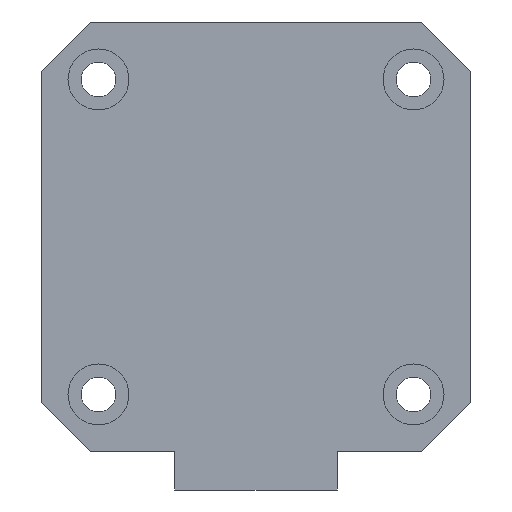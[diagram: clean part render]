
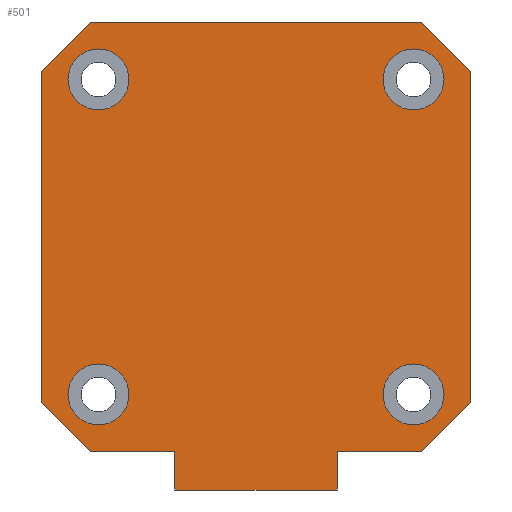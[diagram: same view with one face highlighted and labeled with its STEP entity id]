
A CAD part, front view. The second image highlights one B-rep face of the part: STEP entity #501.
In plain terms, the highlighted planar face has unit normal (0, -1, 0).
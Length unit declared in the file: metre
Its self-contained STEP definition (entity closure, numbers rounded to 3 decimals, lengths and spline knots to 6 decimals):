
#24=CIRCLE('',#531,0.003);
#27=CIRCLE('',#537,0.003);
#30=CIRCLE('',#543,0.003);
#33=CIRCLE('',#549,0.003);
#100=ORIENTED_EDGE('',*,*,#207,.F.);
#101=ORIENTED_EDGE('',*,*,#196,.F.);
#102=ORIENTED_EDGE('',*,*,#208,.F.);
#103=ORIENTED_EDGE('',*,*,#199,.F.);
#104=ORIENTED_EDGE('',*,*,#209,.F.);
#105=ORIENTED_EDGE('',*,*,#202,.F.);
#106=ORIENTED_EDGE('',*,*,#210,.F.);
#107=ORIENTED_EDGE('',*,*,#205,.F.);
#108=ORIENTED_EDGE('',*,*,#211,.F.);
#109=ORIENTED_EDGE('',*,*,#212,.F.);
#110=ORIENTED_EDGE('',*,*,#189,.F.);
#111=ORIENTED_EDGE('',*,*,#193,.T.);
#112=ORIENTED_EDGE('',*,*,#185,.F.);
#113=ORIENTED_EDGE('',*,*,#182,.F.);
#114=ORIENTED_EDGE('',*,*,#179,.F.);
#115=ORIENTED_EDGE('',*,*,#176,.F.);
#176=EDGE_CURVE('',#238,#238,#24,.T.);
#179=EDGE_CURVE('',#241,#241,#27,.T.);
#182=EDGE_CURVE('',#244,#244,#30,.T.);
#185=EDGE_CURVE('',#247,#247,#33,.T.);
#189=EDGE_CURVE('',#251,#252,#281,.T.);
#193=EDGE_CURVE('',#251,#255,#285,.T.);
#196=EDGE_CURVE('',#256,#257,#288,.F.);
#199=EDGE_CURVE('',#258,#259,#291,.F.);
#202=EDGE_CURVE('',#260,#261,#294,.F.);
#205=EDGE_CURVE('',#262,#263,#297,.F.);
#207=EDGE_CURVE('',#257,#255,#299,.F.);
#208=EDGE_CURVE('',#259,#256,#300,.F.);
#209=EDGE_CURVE('',#261,#258,#301,.F.);
#210=EDGE_CURVE('',#263,#260,#302,.F.);
#211=EDGE_CURVE('',#264,#262,#303,.F.);
#212=EDGE_CURVE('',#252,#264,#304,.F.);
#238=VERTEX_POINT('',#747);
#241=VERTEX_POINT('',#756);
#244=VERTEX_POINT('',#765);
#247=VERTEX_POINT('',#774);
#251=VERTEX_POINT('',#784);
#252=VERTEX_POINT('',#786);
#255=VERTEX_POINT('',#793);
#256=VERTEX_POINT('',#798);
#257=VERTEX_POINT('',#800);
#258=VERTEX_POINT('',#804);
#259=VERTEX_POINT('',#806);
#260=VERTEX_POINT('',#810);
#261=VERTEX_POINT('',#812);
#262=VERTEX_POINT('',#816);
#263=VERTEX_POINT('',#818);
#264=VERTEX_POINT('',#826);
#281=LINE('',#785,#327);
#285=LINE('',#794,#331);
#288=LINE('',#799,#334);
#291=LINE('',#805,#337);
#294=LINE('',#811,#340);
#297=LINE('',#817,#343);
#299=LINE('',#821,#345);
#300=LINE('',#822,#346);
#301=LINE('',#823,#347);
#302=LINE('',#824,#348);
#303=LINE('',#825,#349);
#304=LINE('',#827,#350);
#327=VECTOR('',#646,1.);
#331=VECTOR('',#652,1.);
#334=VECTOR('',#657,1.);
#337=VECTOR('',#662,1.);
#340=VECTOR('',#667,1.);
#343=VECTOR('',#672,1.);
#345=VECTOR('',#676,1.);
#346=VECTOR('',#677,1.);
#347=VECTOR('',#678,1.);
#348=VECTOR('',#679,1.);
#349=VECTOR('',#680,1.);
#350=VECTOR('',#681,1.);
#395=EDGE_LOOP('',(#100,#101,#102,#103,#104,#105,#106,#107,#108,#109,#110,
#111));
#396=EDGE_LOOP('',(#112));
#397=EDGE_LOOP('',(#113));
#398=EDGE_LOOP('',(#114));
#399=EDGE_LOOP('',(#115));
#445=FACE_BOUND('',#395,.T.);
#446=FACE_BOUND('',#396,.T.);
#447=FACE_BOUND('',#397,.T.);
#448=FACE_BOUND('',#398,.T.);
#449=FACE_BOUND('',#399,.T.);
#471=PLANE('',#560);
#501=ADVANCED_FACE('',(#445,#446,#447,#448,#449),#471,.F.);
#531=AXIS2_PLACEMENT_3D('',#746,#597,#598);
#537=AXIS2_PLACEMENT_3D('',#755,#609,#610);
#543=AXIS2_PLACEMENT_3D('',#764,#621,#622);
#549=AXIS2_PLACEMENT_3D('',#773,#633,#634);
#560=AXIS2_PLACEMENT_3D('',#820,#674,#675);
#597=DIRECTION('',(0.,-1.,0.));
#598=DIRECTION('',(0.,0.,-1.));
#609=DIRECTION('',(0.,-1.,0.));
#610=DIRECTION('',(0.,0.,-1.));
#621=DIRECTION('',(0.,-1.,0.));
#622=DIRECTION('',(0.,0.,-1.));
#633=DIRECTION('',(0.,-1.,0.));
#634=DIRECTION('',(0.,0.,-1.));
#646=DIRECTION('',(-1.,0.,0.));
#652=DIRECTION('',(0.,0.,1.));
#657=DIRECTION('',(0.707,0.,0.707));
#662=DIRECTION('',(-0.707,0.,0.707));
#667=DIRECTION('',(-0.707,0.,-0.707));
#672=DIRECTION('',(0.707,0.,-0.707));
#674=DIRECTION('',(0.,1.,0.));
#675=DIRECTION('',(0.,0.,1.));
#676=DIRECTION('',(1.,0.,0.));
#677=DIRECTION('',(0.,0.,1.));
#678=DIRECTION('',(-1.,0.,0.));
#679=DIRECTION('',(0.,0.,-1.));
#680=DIRECTION('',(1.,0.,0.));
#681=DIRECTION('',(0.,0.,-1.));
#746=CARTESIAN_POINT('',(-0.0155,0.,-0.0155));
#747=CARTESIAN_POINT('',(-0.0155,0.,-0.0185));
#755=CARTESIAN_POINT('',(0.0155,0.,-0.0155));
#756=CARTESIAN_POINT('',(0.0155,0.,-0.0185));
#764=CARTESIAN_POINT('',(0.0155,0.,0.0155));
#765=CARTESIAN_POINT('',(0.0155,0.,0.0125));
#773=CARTESIAN_POINT('',(-0.0155,0.,0.0155));
#774=CARTESIAN_POINT('',(-0.0155,0.,0.0125));
#784=CARTESIAN_POINT('',(0.008,0.,-0.0249));
#785=CARTESIAN_POINT('',(0.,0.,-0.0249));
#786=CARTESIAN_POINT('',(-0.008,0.,-0.0249));
#793=CARTESIAN_POINT('',(0.008,0.,-0.02115));
#794=CARTESIAN_POINT('',(0.008,0.,0.));
#798=CARTESIAN_POINT('',(0.02115,0.,-0.016327));
#799=CARTESIAN_POINT('',(0.016327,0.,-0.02115));
#800=CARTESIAN_POINT('',(0.016327,0.,-0.02115));
#804=CARTESIAN_POINT('',(0.016327,0.,0.02115));
#805=CARTESIAN_POINT('',(0.02115,0.,0.016327));
#806=CARTESIAN_POINT('',(0.02115,0.,0.016327));
#810=CARTESIAN_POINT('',(-0.02115,0.,0.016327));
#811=CARTESIAN_POINT('',(-0.02115,0.,0.016327));
#812=CARTESIAN_POINT('',(-0.016327,0.,0.02115));
#816=CARTESIAN_POINT('',(-0.016327,0.,-0.02115));
#817=CARTESIAN_POINT('',(-0.016327,0.,-0.02115));
#818=CARTESIAN_POINT('',(-0.02115,0.,-0.016327));
#820=CARTESIAN_POINT('',(0.,0.,0.));
#821=CARTESIAN_POINT('',(-0.016327,0.,-0.02115));
#822=CARTESIAN_POINT('',(0.02115,0.,0.016327));
#823=CARTESIAN_POINT('',(-0.016327,0.,0.02115));
#824=CARTESIAN_POINT('',(-0.02115,0.,0.016327));
#825=CARTESIAN_POINT('',(-0.016327,0.,-0.02115));
#826=CARTESIAN_POINT('',(-0.008,0.,-0.02115));
#827=CARTESIAN_POINT('',(-0.008,0.,-0.0249));
